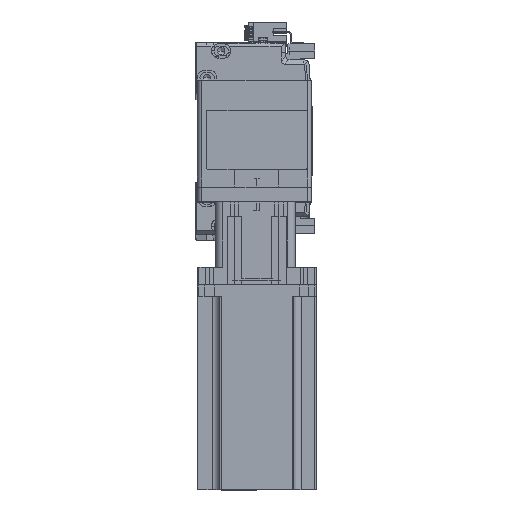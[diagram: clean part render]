
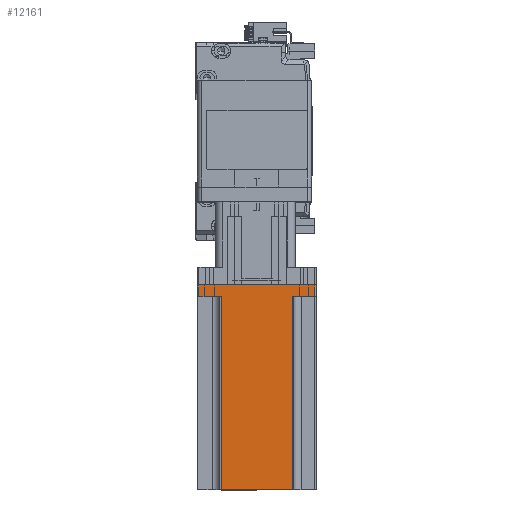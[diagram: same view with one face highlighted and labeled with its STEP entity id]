
A CAD part, top view. The second image highlights one B-rep face of the part: STEP entity #12161.
In plain terms, the highlighted planar face has unit normal (0, 0, 1) as drawn and (0, 1, 0) by its records, which use the part's own axes.
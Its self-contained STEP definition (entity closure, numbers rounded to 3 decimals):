
#232 = VERTEX_POINT ( 'NONE', #50071 ) ;
#1429 = DIRECTION ( 'NONE',  ( 0., 0., 1. ) ) ;
#2767 = EDGE_CURVE ( 'NONE', #31423, #55808, #7948, .T. ) ;
#3050 = CARTESIAN_POINT ( 'NONE',  ( 39., 40., 8. ) ) ;
#3694 = ORIENTED_EDGE ( 'NONE', *, *, #3956, .F. ) ;
#3702 = PLANE ( 'NONE',  #5770 ) ;
#3956 = EDGE_CURVE ( 'NONE', #52815, #35534, #42532, .T. ) ;
#5130 = DIRECTION ( 'NONE',  ( -1., 0., 0. ) ) ;
#5168 = EDGE_CURVE ( 'NONE', #33681, #25101, #29443, .T. ) ;
#5506 = EDGE_LOOP ( 'NONE', ( #46208, #36862, #15713, #8983, #3694, #36960, #10420, #46625 ) ) ;
#5770 = AXIS2_PLACEMENT_3D ( 'NONE', #28211, #62260, #33094 ) ;
#6877 = CARTESIAN_POINT ( 'NONE',  ( -39., 40., 8. ) ) ;
#7925 = CARTESIAN_POINT ( 'NONE',  ( -39., 40., 138.3 ) ) ;
#7948 = LINE ( 'NONE', #59767, #19403 ) ;
#8790 = DIRECTION ( 'NONE',  ( 1., 0., 0. ) ) ;
#8983 = ORIENTED_EDGE ( 'NONE', *, *, #20300, .T. ) ;
#9268 = CARTESIAN_POINT ( 'NONE',  ( 24., 40., 138.3 ) ) ;
#10420 = ORIENTED_EDGE ( 'NONE', *, *, #49109, .T. ) ;
#12161 = ADVANCED_FACE ( 'NONE', ( #22977 ), #3702, .F. ) ;
#12848 = DIRECTION ( 'NONE',  ( 0., 0., -1. ) ) ;
#13674 = VECTOR ( 'NONE', #14195, 1000. ) ;
#14195 = DIRECTION ( 'NONE',  ( 0., 0., -1. ) ) ;
#15713 = ORIENTED_EDGE ( 'NONE', *, *, #33060, .F. ) ;
#19403 = VECTOR ( 'NONE', #1429, 1000. ) ;
#20026 = LINE ( 'NONE', #43910, #44398 ) ;
#20300 = EDGE_CURVE ( 'NONE', #232, #35534, #39587, .T. ) ;
#22338 = EDGE_CURVE ( 'NONE', #25101, #31423, #34559, .T. ) ;
#22581 = DIRECTION ( 'NONE',  ( -1., 0., 0. ) ) ;
#22977 = FACE_OUTER_BOUND ( 'NONE', #5506, .T. ) ;
#24856 = VERTEX_POINT ( 'NONE', #34016 ) ;
#25101 = VERTEX_POINT ( 'NONE', #6877 ) ;
#25807 = VECTOR ( 'NONE', #22581, 1000. ) ;
#27531 = DIRECTION ( 'NONE',  ( 0., 0., 1. ) ) ;
#28211 = CARTESIAN_POINT ( 'NONE',  ( 40., 40., 138.3 ) ) ;
#29443 = LINE ( 'NONE', #7925, #56821 ) ;
#29606 = VECTOR ( 'NONE', #62942, 1000. ) ;
#31423 = VERTEX_POINT ( 'NONE', #37897 ) ;
#33060 = EDGE_CURVE ( 'NONE', #232, #55808, #51698, .T. ) ;
#33094 = DIRECTION ( 'NONE',  ( 1., 0., 0. ) ) ;
#33681 = VERTEX_POINT ( 'NONE', #57549 ) ;
#34016 = CARTESIAN_POINT ( 'NONE',  ( 39., 40., 0. ) ) ;
#34559 = LINE ( 'NONE', #62424, #45990 ) ;
#35534 = VERTEX_POINT ( 'NONE', #54538 ) ;
#36862 = ORIENTED_EDGE ( 'NONE', *, *, #2767, .T. ) ;
#36960 = ORIENTED_EDGE ( 'NONE', *, *, #47614, .T. ) ;
#37026 = LINE ( 'NONE', #42223, #48436 ) ;
#37897 = CARTESIAN_POINT ( 'NONE',  ( -24., 40., 8. ) ) ;
#39587 = LINE ( 'NONE', #9268, #13674 ) ;
#41490 = CARTESIAN_POINT ( 'NONE',  ( -24., 40., 138.3 ) ) ;
#42223 = CARTESIAN_POINT ( 'NONE',  ( 39., 40., 138.3 ) ) ;
#42532 = LINE ( 'NONE', #48230, #29606 ) ;
#43910 = CARTESIAN_POINT ( 'NONE',  ( 40., 40., 0. ) ) ;
#44398 = VECTOR ( 'NONE', #5130, 1000. ) ;
#45990 = VECTOR ( 'NONE', #8790, 1000. ) ;
#46208 = ORIENTED_EDGE ( 'NONE', *, *, #22338, .T. ) ;
#46625 = ORIENTED_EDGE ( 'NONE', *, *, #5168, .T. ) ;
#47614 = EDGE_CURVE ( 'NONE', #52815, #24856, #37026, .T. ) ;
#48230 = CARTESIAN_POINT ( 'NONE',  ( 25., 40., 8. ) ) ;
#48436 = VECTOR ( 'NONE', #12848, 1000. ) ;
#49109 = EDGE_CURVE ( 'NONE', #24856, #33681, #20026, .T. ) ;
#50071 = CARTESIAN_POINT ( 'NONE',  ( 24., 40., 138.3 ) ) ;
#51698 = LINE ( 'NONE', #51736, #25807 ) ;
#51736 = CARTESIAN_POINT ( 'NONE',  ( 40., 40., 138.3 ) ) ;
#52815 = VERTEX_POINT ( 'NONE', #3050 ) ;
#54538 = CARTESIAN_POINT ( 'NONE',  ( 24., 40., 8. ) ) ;
#55808 = VERTEX_POINT ( 'NONE', #41490 ) ;
#56821 = VECTOR ( 'NONE', #27531, 1000. ) ;
#57549 = CARTESIAN_POINT ( 'NONE',  ( -39., 40., 0. ) ) ;
#59767 = CARTESIAN_POINT ( 'NONE',  ( -24., 40., 138.3 ) ) ;
#62260 = DIRECTION ( 'NONE',  ( 0., -1., 0. ) ) ;
#62424 = CARTESIAN_POINT ( 'NONE',  ( -25., 40., 8. ) ) ;
#62942 = DIRECTION ( 'NONE',  ( -1., 0., 0. ) ) ;
